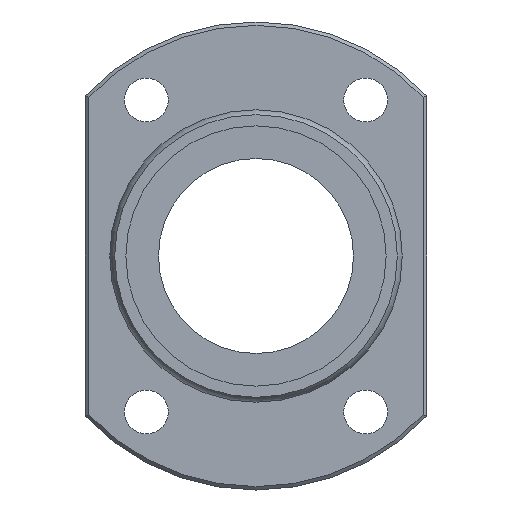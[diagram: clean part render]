
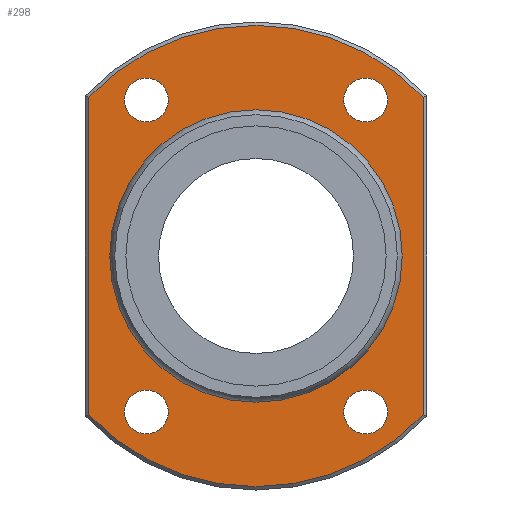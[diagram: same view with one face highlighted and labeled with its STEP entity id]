
A CAD part, left-side view. The second image highlights one B-rep face of the part: STEP entity #298.
In plain terms, the highlighted planar face has unit normal (-1, 0, 0).
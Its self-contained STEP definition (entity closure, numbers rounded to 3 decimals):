
#59=CARTESIAN_POINT('',(18.,34.3,-32.57));
#60=VERTEX_POINT('',#59);
#68=CARTESIAN_POINT('',(18.,34.3,32.57));
#69=VERTEX_POINT('',#68);
#70=CARTESIAN_POINT('',(18.,34.3,-32.57));
#71=DIRECTION('',(0.0,0.0,1.0));
#72=VECTOR('',#71,65.14);
#73=LINE('',#70,#72);
#74=EDGE_CURVE('',#60,#69,#73,.T.);
#101=CARTESIAN_POINT('',(18.,-34.3,32.57));
#102=VERTEX_POINT('',#101);
#103=CARTESIAN_POINT('',(18.,0.0,0.0));
#104=DIRECTION('',(1.0,0.0,0.0));
#105=DIRECTION('',(0.0,0.0,1.0));
#106=AXIS2_PLACEMENT_3D('',#103,#104,#105);
#107=CIRCLE('',#106,47.3);
#108=EDGE_CURVE('',#69,#102,#107,.T.);
#134=CARTESIAN_POINT('',(18.,-34.3,-32.57));
#135=VERTEX_POINT('',#134);
#136=CARTESIAN_POINT('',(18.,-34.3,32.57));
#137=DIRECTION('',(0.0,0.0,-1.0));
#138=VECTOR('',#137,65.14);
#139=LINE('',#136,#138);
#140=EDGE_CURVE('',#102,#135,#139,.T.);
#165=CARTESIAN_POINT('',(18.,0.0,0.0));
#166=DIRECTION('',(1.0,0.0,0.0));
#167=DIRECTION('',(0.0,0.0,-1.0));
#168=AXIS2_PLACEMENT_3D('',#165,#166,#167);
#169=CIRCLE('',#168,47.3);
#170=EDGE_CURVE('',#135,#60,#169,.T.);
#232=CARTESIAN_POINT('',(18.,0.0,38.834));
#233=DIRECTION('',(-1.0,0.0,0.0));
#234=DIRECTION('',(0.0,0.0,1.0));
#235=AXIS2_PLACEMENT_3D('',#232,#233,#234);
#236=PLANE('',#235);
#237=ORIENTED_EDGE('',*,*,#74,.F.);
#238=ORIENTED_EDGE('',*,*,#170,.F.);
#239=ORIENTED_EDGE('',*,*,#140,.F.);
#240=ORIENTED_EDGE('',*,*,#108,.F.);
#241=EDGE_LOOP('',(#237,#238,#239,#240));
#242=FACE_OUTER_BOUND('',#241,.T.);
#243=CARTESIAN_POINT('',(18.,0.0,29.668));
#244=VERTEX_POINT('',#243);
#245=CARTESIAN_POINT('',(18.,0.0,0.0));
#246=DIRECTION('',(-1.0,0.0,0.0));
#247=DIRECTION('',(0.0,0.0,1.0));
#248=AXIS2_PLACEMENT_3D('',#245,#246,#247);
#249=CIRCLE('',#248,29.668);
#250=EDGE_CURVE('',#244,#244,#249,.T.);
#251=ORIENTED_EDGE('',*,*,#250,.F.);
#252=EDGE_LOOP('',(#251));
#253=FACE_BOUND('',#252,.T.);
#254=CARTESIAN_POINT('',(18.,-27.,-32.));
#255=VERTEX_POINT('',#254);
#256=CARTESIAN_POINT('',(18.,-22.5,-32.));
#257=DIRECTION('',(1.0,0.0,0.0));
#258=DIRECTION('',(0.0,1.0,0.0));
#259=AXIS2_PLACEMENT_3D('',#256,#257,#258);
#260=CIRCLE('',#259,4.5);
#261=EDGE_CURVE('',#255,#255,#260,.T.);
#262=ORIENTED_EDGE('',*,*,#261,.T.);
#263=EDGE_LOOP('',(#262));
#264=FACE_BOUND('',#263,.T.);
#265=CARTESIAN_POINT('',(18.,-27.,32.));
#266=VERTEX_POINT('',#265);
#267=CARTESIAN_POINT('',(18.,-22.5,32.));
#268=DIRECTION('',(1.0,0.0,0.0));
#269=DIRECTION('',(0.0,1.0,0.0));
#270=AXIS2_PLACEMENT_3D('',#267,#268,#269);
#271=CIRCLE('',#270,4.5);
#272=EDGE_CURVE('',#266,#266,#271,.T.);
#273=ORIENTED_EDGE('',*,*,#272,.T.);
#274=EDGE_LOOP('',(#273));
#275=FACE_BOUND('',#274,.T.);
#276=CARTESIAN_POINT('',(18.,18.,-32.));
#277=VERTEX_POINT('',#276);
#278=CARTESIAN_POINT('',(18.,22.5,-32.));
#279=DIRECTION('',(1.0,0.0,0.0));
#280=DIRECTION('',(0.0,1.0,0.0));
#281=AXIS2_PLACEMENT_3D('',#278,#279,#280);
#282=CIRCLE('',#281,4.5);
#283=EDGE_CURVE('',#277,#277,#282,.T.);
#284=ORIENTED_EDGE('',*,*,#283,.T.);
#285=EDGE_LOOP('',(#284));
#286=FACE_BOUND('',#285,.T.);
#287=CARTESIAN_POINT('',(18.,18.,32.));
#288=VERTEX_POINT('',#287);
#289=CARTESIAN_POINT('',(18.,22.5,32.));
#290=DIRECTION('',(1.0,0.0,0.0));
#291=DIRECTION('',(0.0,1.0,0.0));
#292=AXIS2_PLACEMENT_3D('',#289,#290,#291);
#293=CIRCLE('',#292,4.5);
#294=EDGE_CURVE('',#288,#288,#293,.T.);
#295=ORIENTED_EDGE('',*,*,#294,.T.);
#296=EDGE_LOOP('',(#295));
#297=FACE_BOUND('',#296,.T.);
#298=ADVANCED_FACE('',(#242,#253,#264,#275,#286,#297),#236,.T.);
